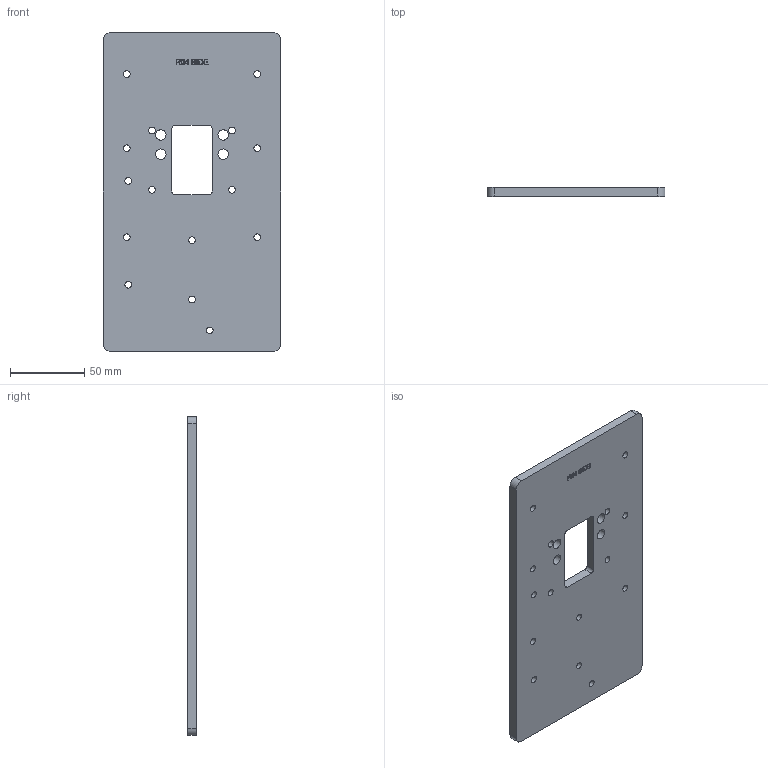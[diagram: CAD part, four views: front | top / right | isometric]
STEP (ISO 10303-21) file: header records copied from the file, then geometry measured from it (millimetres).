
FILE_DESCRIPTION(('Open CASCADE Model'),'2;1');
FILE_NAME('Open CASCADE Shape Model','2026-10-13T11:47:36',('Author'),( 'Open CASCADE'),'Open CASCADE STEP processor 7.8','Open CASCADE 7.8' ,'Unknown');
FILE_SCHEMA(('AUTOMOTIVE_DESIGN { 1 0 10303 214 1 1 1 1 }'));
Length unit declared in the file: millimetre
Products named in the file (1): Open CASCADE STEP translator 7.8 24
Bounding box: 120 x 6 x 215 mm (x, y, z)
Volume: 144658.1 mm3; surface area: 54944.2 mm2
Topology: 1 solids, 1 shells, 182 faces, 507 edges, 338 vertices
Faces by surface type: extrusion 85, plane 70, cylinder 27
Full cylindrical faces by diameter (mm): 4.5 x3, 4.6 x12, 7 x4
Entity records: 14233 total; most frequent: CARTESIAN_POINT 4799, DIRECTION 1391, VECTOR 1073, ORIENTED_EDGE 1014, PCURVE 1014, DEFINITIONAL_REPRESENTATION 1014, LINE 988, B_SPLINE_CURVE_WITH_KNOTS 510
